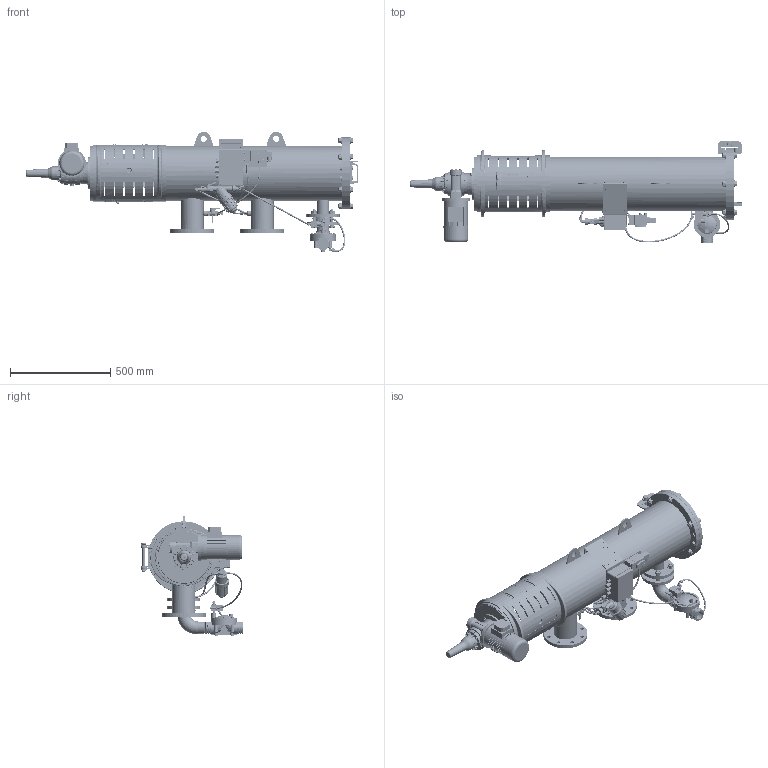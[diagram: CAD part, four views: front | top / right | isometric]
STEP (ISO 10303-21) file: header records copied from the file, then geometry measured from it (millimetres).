
FILE_DESCRIPTION (( 'STEP AP214' ), '1' );
FILE_NAME ('041041-000031.STEP', '2023-02-07T11:13:45', ( '' ), ( '' ), 'SwSTEP 2.0', 'SolidWorks 2019', '' );
FILE_SCHEMA (( 'AUTOMOTIVE_DESIGN' ));
Length unit declared in the file: millimetre
Products named in the file (1): 041041-000031
Bounding box: 1658.82 x 510.8 x 600.78 mm (x, y, z)
Volume: 21421564.1 mm3; surface area: 5584989.3 mm2
Topology: 269 solids, 274 shells, 17952 faces, 43445 edges, 26279 vertices
Faces by surface type: plane 8287, bspline 3292, cylinder 2965, cone 1633, torus 1405, sphere 370
Full cylindrical faces by diameter (mm): 1.2 x10, 2 x2, 2.381 x2, 2.4 x4, 3 x6, 3.5 x5, 3.9 x4, 4 x20, 4.134 x4, 4.166 x2, 4.2 x1, 4.4 x2, 4.7 x2, 4.75 x12, 4.763 x2, 4.773 x6, 4.917 x2, 4.971 x4, 5 x22, 5.7 x9, 6 x41, 6.2 x3, 6.5 x14, 6.6 x3, 6.858 x2, 7 x11, 7.137 x21, 7.187 x1, 7.5 x2, 7.95 x10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
Entity records: 942788 total; most frequent: CARTESIAN_POINT 368066, ORIENTED_EDGE 81180, DIRECTION 70416, EDGE_CURVE 40590, AXIS2_PLACEMENT_3D 27241, VERTEX_POINT 25755, EDGE_LOOP 21249, FACE_OUTER_BOUND 19067
